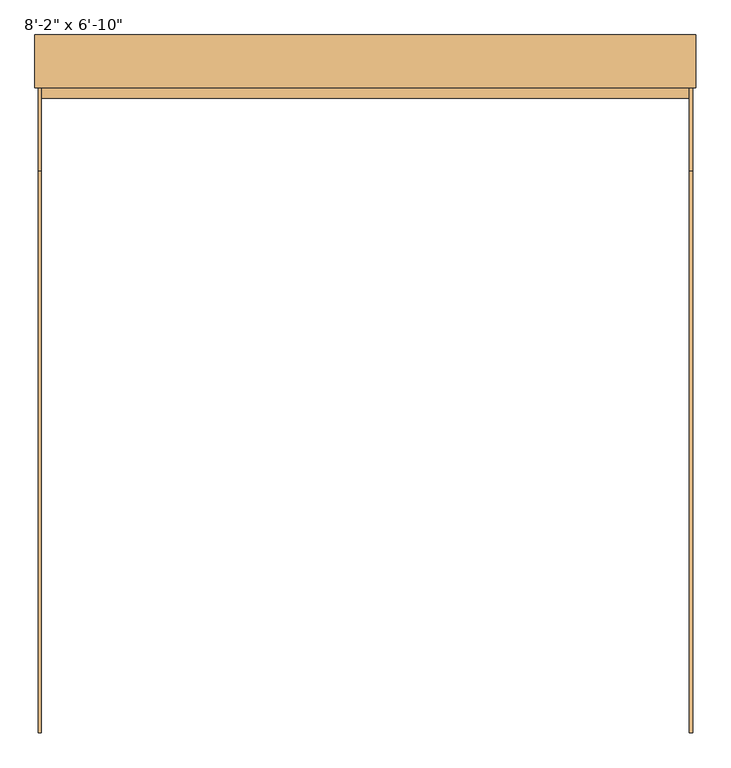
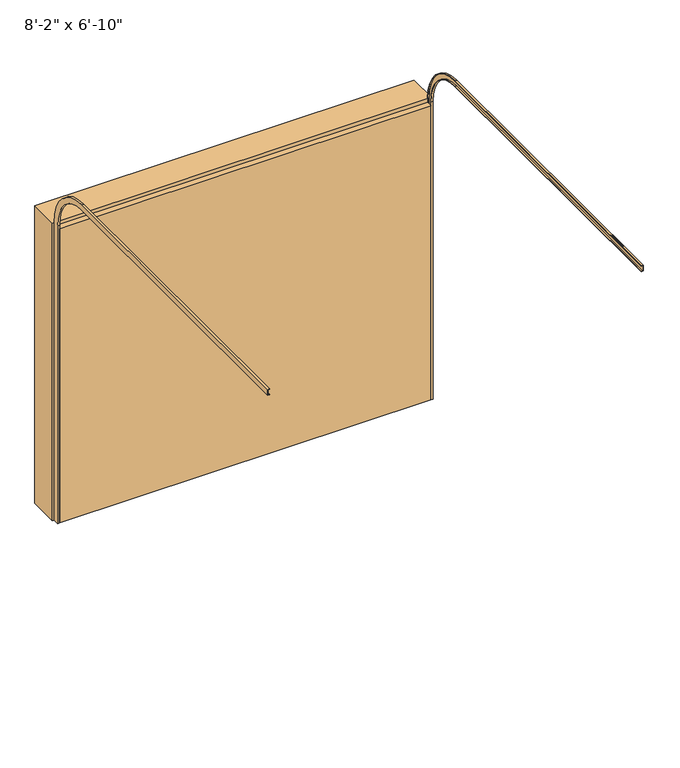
"""IFC4 building model written with IfcOpenShell, lengths in millimetres: door geometry."""

from ifc_helpers import new_model, si_unit, frame, origin, origin_with_axes, place, context, project, spatial, polyline, circle_curve, outline, extrude, source, transform, mapped, element, save
from ifc_brep_helpers import plane_surface, cylinder_surface, revolved_surface, advanced_brep


def door_520bfe9a(model_context):
    return source(origin(), model_context, "Body", "SolidModel", [
        advanced_brep(
        [(1257.3, -144.775, 0.0), (1244.6, -144.775, 0.0), (1244.6, -141.6, 0.0), (1254.125, -141.6, 0.0), (1254.125, -107.975, 0.0), (1244.6, -107.975, 0.0), (1244.6, -104.775, 0.0), (1257.3, -104.775, 0.0), (1257.3, -144.775, 2107.8), (1244.6, -144.775, 2107.8), (1244.6, -424.175, 2387.2), (1244.6, -2583.175, 2387.2), (1244.6, -2583.175, 2390.375), (1244.6, -424.175, 2390.375), (1244.6, -141.6, 2107.8), (1254.125, -141.6, 2107.8), (1254.125, -424.175, 2390.375), (1254.125, -2583.175, 2390.375), (1254.125, -2583.175, 2424.0), (1254.125, -424.175, 2424.0), (1254.125, -107.975, 2107.8), (1244.6, -107.975, 2107.8), (1244.6, -424.175, 2424.0), (1244.6, -2583.175, 2424.0), (1244.6, -2583.175, 2427.2), (1244.6, -424.175, 2427.2), (1244.6, -104.775, 2107.8), (1257.3, -104.775, 2107.8), (1257.3, -424.175, 2427.2), (1257.3, -2583.175, 2427.2), (1257.3, -2583.175, 2387.2), (1257.3, -424.175, 2387.2)],
        [
            (0, 1),
            (1, 2),
            (2, 3),
            (3, 4),
            (4, 5),
            (5, 6),
            (6, 7),
            (7, 0),
            (0, 8),
            (8, 9),
            (9, 1),
            (9, 10, circle_curve(frame((1244.6, -424.175, 2107.8), z_axis=(1.0, 0.0, 0.0), x_axis=(0.0, 1.0, 0.0)), 279.4)),
            (10, 11),
            (11, 12),
            (12, 13),
            (13, 14, circle_curve(frame((1244.6, -424.175, 2107.8), z_axis=(-1.0, 0.0, 0.0), x_axis=(0.0, 1.0, 0.0)), 282.575)),
            (14, 2),
            (14, 15),
            (15, 3),
            (15, 16, circle_curve(frame((1254.125, -424.175, 2107.8), z_axis=(1.0, 0.0, 0.0), x_axis=(0.0, 1.0, 0.0)), 282.575)),
            (16, 17),
            (17, 18),
            (18, 19),
            (19, 20, circle_curve(frame((1254.125, -424.175, 2107.8), z_axis=(-1.0, 0.0, 0.0), x_axis=(0.0, 1.0, 0.0)), 316.2)),
            (20, 4),
            (20, 21),
            (21, 5),
            (21, 22, circle_curve(frame((1244.6, -424.175, 2107.8), z_axis=(1.0, 0.0, 0.0), x_axis=(0.0, 1.0, 0.0)), 316.2)),
            (22, 23),
            (23, 24),
            (24, 25),
            (25, 26, circle_curve(frame((1244.6, -424.175, 2107.8), z_axis=(-1.0, 0.0, 0.0), x_axis=(0.0, 1.0, 0.0)), 319.4)),
            (26, 6),
            (26, 27),
            (27, 7),
            (27, 28, circle_curve(frame((1257.3, -424.175, 2107.8), z_axis=(1.0, 0.0, 0.0), x_axis=(0.0, 1.0, 0.0)), 319.4)),
            (28, 29),
            (29, 30),
            (30, 31),
            (31, 8, circle_curve(frame((1257.3, -424.175, 2107.8), z_axis=(-1.0, 0.0, 0.0), x_axis=(0.0, 1.0, 0.0)), 279.4)),
            (31, 10),
            (13, 16),
            (19, 22),
            (25, 28),
            (29, 24),
            (23, 18),
            (17, 12),
            (11, 30),
        ],
        [
            plane_surface(frame((0.0, -144.775, 0.0), z_axis=(0.0, 0.0, -1.0), x_axis=(1.0, 0.0, 0.0))),
            plane_surface(frame((1257.3, -144.775, 0.0), z_axis=(0.0, -1.0, 0.0), x_axis=(0.0, 0.0, 1.0))),
            plane_surface(frame((1244.6, -144.775, 0.0), z_axis=(-1.0, 0.0, 0.0), x_axis=(0.0, 0.0, 1.0))),
            plane_surface(frame((1244.6, -141.6, 0.0), z_axis=(0.0, 1.0, 0.0), x_axis=(0.0, 0.0, 1.0))),
            plane_surface(frame((1254.125, -141.6, 0.0), z_axis=(-1.0, 0.0, 0.0), x_axis=(0.0, 0.0, 1.0))),
            plane_surface(frame((1254.125, -107.975, 0.0), z_axis=(0.0, -1.0, 0.0), x_axis=(0.0, 0.0, 1.0))),
            plane_surface(frame((1244.6, -107.975, 0.0), z_axis=(-1.0, 0.0, 0.0), x_axis=(0.0, 0.0, 1.0))),
            plane_surface(frame((1244.6, -104.775, 0.0), z_axis=(0.0, 1.0, 0.0), x_axis=(0.0, 0.0, 1.0))),
            plane_surface(frame((1257.3, -104.775, 0.0), z_axis=(1.0, 0.0, 0.0), x_axis=(0.0, 0.0, 1.0))),
            revolved_surface(polyline([(1257.3, -144.77500000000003, 2107.8), (1244.6, -144.77500000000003, 2107.8)]), (0.0, -424.175, 2107.8), (1.0, 0.0, 0.0)),
            cylinder_surface(frame((0.0, -424.175, 2107.8), z_axis=(1.0, 0.0, 0.0), x_axis=(0.0, 1.0, 0.0)), 282.575),
            revolved_surface(polyline([(1254.125, -107.97500000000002, 2107.8), (1244.6, -107.97500000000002, 2107.8)]), (0.0, -424.175, 2107.8), (1.0, 0.0, 0.0)),
            cylinder_surface(frame((0.0, -424.175, 2107.8), z_axis=(1.0, 0.0, 0.0), x_axis=(0.0, 1.0, 0.0)), 319.4),
            plane_surface(frame((0.0, -2583.175, 2387.2), z_axis=(0.0, -1.0, 0.0), x_axis=(1.0, 0.0, 0.0))),
            plane_surface(frame((1257.3, -424.175, 2387.2), z_axis=(0.0, 0.0, -1.0), x_axis=(0.0, -1.0, 0.0))),
            plane_surface(frame((1244.6, -424.175, 2390.375), z_axis=(0.0, 0.0, 1.0), x_axis=(0.0, -1.0, 0.0))),
            plane_surface(frame((1254.125, -424.175, 2424.0), z_axis=(0.0, 0.0, -1.0), x_axis=(0.0, -1.0, 0.0))),
            plane_surface(frame((1244.6, -424.175, 2427.2), z_axis=(0.0, 0.0, 1.0), x_axis=(0.0, -1.0, 0.0))),
        ],
        [
            (0, [[1, 2, 3, 4, 5, 6, 7, 8]]),
            (1, [[-1, 9, 10, 11]]),
            (2, [[-2, -11, 12, 13, 14, 15, 16, 17]]),
            (3, [[-3, -17, 18, 19]]),
            (4, [[-4, -19, 20, 21, 22, 23, 24, 25]]),
            (5, [[-5, -25, 26, 27]]),
            (6, [[-6, -27, 28, 29, 30, 31, 32, 33]]),
            (7, [[-7, -33, 34, 35]]),
            (8, [[-8, -35, 36, 37, 38, 39, 40, -9]]),
            (9, [[-12, -10, -40, 41]]),
            (10, [[-20, -18, -16, 42]]),
            (11, [[-28, -26, -24, 43]]),
            (12, [[-36, -34, -32, 44]]),
            (13, [[-38, 45, -30, 46, -22, 47, -14, 48]]),
            (14, [[-41, -39, -48, -13]]),
            (15, [[-42, -15, -47, -21]]),
            (16, [[-43, -23, -46, -29]]),
            (17, [[-44, -31, -45, -37]]),
        ],
    ),
        advanced_brep(
        [(-1257.3, -144.775, 0.0), (-1257.3, -104.775, 0.0), (-1244.6, -104.775, 0.0), (-1244.6, -107.975, 0.0), (-1254.125, -107.975, 0.0), (-1254.125, -141.6, 0.0), (-1244.6, -141.6, 0.0), (-1244.6, -144.775, 0.0), (-1257.3, -144.775, 2107.8), (-1257.3, -424.175, 2387.2), (-1257.3, -2583.175, 2387.2), (-1257.3, -2583.175, 2427.2), (-1257.3, -424.175, 2427.2), (-1257.3, -104.775, 2107.8), (-1244.6, -104.775, 2107.8), (-1244.6, -424.175, 2427.2), (-1244.6, -2583.175, 2427.2), (-1244.6, -2583.175, 2424.0), (-1244.6, -424.175, 2424.0), (-1244.6, -107.975, 2107.8), (-1254.125, -107.975, 2107.8), (-1254.125, -424.175, 2424.0), (-1254.125, -2583.175, 2424.0), (-1254.125, -2583.175, 2390.375), (-1254.125, -424.175, 2390.375), (-1254.125, -141.6, 2107.8), (-1244.6, -141.6, 2107.8), (-1244.6, -424.175, 2390.375), (-1244.6, -2583.175, 2390.375), (-1244.6, -2583.175, 2387.2), (-1244.6, -424.175, 2387.2), (-1244.6, -144.775, 2107.8)],
        [
            (0, 1),
            (1, 2),
            (2, 3),
            (3, 4),
            (4, 5),
            (5, 6),
            (6, 7),
            (7, 0),
            (0, 8),
            (8, 9, circle_curve(frame((-1257.3, -424.175, 2107.8), z_axis=(1.0, 0.0, 0.0), x_axis=(0.0, 1.0, 0.0)), 279.4)),
            (9, 10),
            (10, 11),
            (11, 12),
            (12, 13, circle_curve(frame((-1257.3, -424.175, 2107.8), z_axis=(-1.0, 0.0, 0.0), x_axis=(0.0, 1.0, 0.0)), 319.4)),
            (13, 1),
            (13, 14),
            (14, 2),
            (14, 15, circle_curve(frame((-1244.6, -424.175, 2107.8), z_axis=(1.0, 0.0, 0.0), x_axis=(0.0, 1.0, 0.0)), 319.4)),
            (15, 16),
            (16, 17),
            (17, 18),
            (18, 19, circle_curve(frame((-1244.6, -424.175, 2107.8), z_axis=(-1.0, 0.0, 0.0), x_axis=(0.0, 1.0, 0.0)), 316.2)),
            (19, 3),
            (19, 20),
            (20, 4),
            (20, 21, circle_curve(frame((-1254.125, -424.175, 2107.8), z_axis=(1.0, 0.0, 0.0), x_axis=(0.0, 1.0, 0.0)), 316.2)),
            (21, 22),
            (22, 23),
            (23, 24),
            (24, 25, circle_curve(frame((-1254.125, -424.175, 2107.8), z_axis=(-1.0, 0.0, 0.0), x_axis=(0.0, 1.0, 0.0)), 282.575)),
            (25, 5),
            (25, 26),
            (26, 6),
            (26, 27, circle_curve(frame((-1244.6, -424.175, 2107.8), z_axis=(1.0, 0.0, 0.0), x_axis=(0.0, 1.0, 0.0)), 282.575)),
            (27, 28),
            (28, 29),
            (29, 30),
            (30, 31, circle_curve(frame((-1244.6, -424.175, 2107.8), z_axis=(-1.0, 0.0, 0.0), x_axis=(0.0, 1.0, 0.0)), 279.4)),
            (31, 7),
            (31, 8),
            (12, 15),
            (18, 21),
            (24, 27),
            (30, 9),
            (10, 29),
            (28, 23),
            (22, 17),
            (16, 11),
        ],
        [
            plane_surface(frame((0.0, -144.775, 0.0), z_axis=(0.0, 0.0, -1.0), x_axis=(1.0, 0.0, 0.0))),
            plane_surface(frame((-1257.3, -144.775, 0.0), z_axis=(-1.0, 0.0, 0.0), x_axis=(0.0, 0.0, 1.0))),
            plane_surface(frame((-1257.3, -104.775, 0.0), z_axis=(0.0, 1.0, 0.0), x_axis=(0.0, 0.0, 1.0))),
            plane_surface(frame((-1244.6, -104.775, 0.0), z_axis=(1.0, 0.0, 0.0), x_axis=(0.0, 0.0, 1.0))),
            plane_surface(frame((-1244.6, -107.975, 0.0), z_axis=(0.0, -1.0, 0.0), x_axis=(0.0, 0.0, 1.0))),
            plane_surface(frame((-1254.125, -107.975, 0.0), z_axis=(1.0, 0.0, 0.0), x_axis=(0.0, 0.0, 1.0))),
            plane_surface(frame((-1254.125, -141.6, 0.0), z_axis=(0.0, 1.0, 0.0), x_axis=(0.0, 0.0, 1.0))),
            plane_surface(frame((-1244.6, -141.6, 0.0), z_axis=(1.0, 0.0, 0.0), x_axis=(0.0, 0.0, 1.0))),
            plane_surface(frame((-1244.6, -144.775, 0.0), z_axis=(0.0, -1.0, 0.0), x_axis=(0.0, 0.0, 1.0))),
            cylinder_surface(frame((0.0, -424.175, 2107.8), z_axis=(1.0, 0.0, 0.0), x_axis=(0.0, 1.0, 0.0)), 319.4),
            revolved_surface(polyline([(-1244.6, -107.97500000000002, 2107.8), (-1254.125, -107.97500000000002, 2107.8)]), (0.0, -424.175, 2107.8), (1.0, 0.0, 0.0)),
            cylinder_surface(frame((0.0, -424.175, 2107.8), z_axis=(1.0, 0.0, 0.0), x_axis=(0.0, 1.0, 0.0)), 282.575),
            revolved_surface(polyline([(-1244.6, -144.77500000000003, 2107.8), (-1257.3, -144.77500000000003, 2107.8)]), (0.0, -424.175, 2107.8), (1.0, 0.0, 0.0)),
            plane_surface(frame((0.0, -2583.175, 2387.2), z_axis=(0.0, -1.0, 0.0), x_axis=(1.0, 0.0, 0.0))),
            plane_surface(frame((-1257.3, -424.175, 2427.2), z_axis=(0.0, 0.0, 1.0), x_axis=(0.0, -1.0, 0.0))),
            plane_surface(frame((-1244.6, -424.175, 2424.0), z_axis=(0.0, 0.0, -1.0), x_axis=(0.0, -1.0, 0.0))),
            plane_surface(frame((-1254.125, -424.175, 2390.375), z_axis=(0.0, 0.0, 1.0), x_axis=(0.0, -1.0, 0.0))),
            plane_surface(frame((-1244.6, -424.175, 2387.2), z_axis=(0.0, 0.0, -1.0), x_axis=(0.0, -1.0, 0.0))),
        ],
        [
            (0, [[1, 2, 3, 4, 5, 6, 7, 8]]),
            (1, [[-1, 9, 10, 11, 12, 13, 14, 15]]),
            (2, [[-2, -15, 16, 17]]),
            (3, [[-3, -17, 18, 19, 20, 21, 22, 23]]),
            (4, [[-4, -23, 24, 25]]),
            (5, [[-5, -25, 26, 27, 28, 29, 30, 31]]),
            (6, [[-6, -31, 32, 33]]),
            (7, [[-7, -33, 34, 35, 36, 37, 38, 39]]),
            (8, [[-8, -39, 40, -9]]),
            (9, [[-18, -16, -14, 41]]),
            (10, [[-26, -24, -22, 42]]),
            (11, [[-34, -32, -30, 43]]),
            (12, [[-10, -40, -38, 44]]),
            (13, [[45, -36, 46, -28, 47, -20, 48, -12]]),
            (14, [[-41, -13, -48, -19]]),
            (15, [[-42, -21, -47, -27]]),
            (16, [[-43, -29, -46, -35]]),
            (17, [[-44, -37, -45, -11]]),
        ],
    ),
        extrude(outline(polyline([(0.0, 1244.6), (0.0, 1269.6), (2107.8, 1269.6), (2107.8, -1269.6), (0.0, -1269.6), (0.0, -1244.6), (2082.8, -1244.6), (2082.8, 1244.6), (0.0, 1244.6)])), frame((0.0, -104.775, 0.0), z_axis=(0.0, 1.0, 0.0), x_axis=(0.0, 0.0, 1.0)), (0.0, 0.0, 1.0), 203.2),
        extrude(outline(polyline([(1244.6, -144.775), (-1244.6, -144.775), (-1244.6, -104.775), (1244.6, -104.775), (1244.6, -144.775)])), origin_with_axes(), (0.0, 0.0, 1.0), 2082.8),
    ])


if __name__ == "__main__":
    model = new_model("IFC4")
    model_context = context("Model", 3, world=origin())
    ifc_project = project(units=[si_unit("LENGTHUNIT", "METRE", prefix="MILLI")], contexts=[model_context])
    site = spatial("IfcSite", under=ifc_project)
    building = spatial("IfcBuilding", under=site)
    placement = place(None, origin())
    door_shape = door_520bfe9a(model_context)
    element("IfcDoor", 1, ObjectType="Planitar - Garage Door : 8'-2\" x 6'-10\"", at=placement, inside=building, context=model_context, shape_type="MappedRepresentation", body=[
        mapped(door_shape, transform((0.0, 0.0, 0.0), x_axis=(1.0, 0.0, 0.0), y_axis=(0.0, 1.0, 0.0), z_axis=(0.0, 0.0, 1.0))),
    ])
    save(model, "model.ifc")
